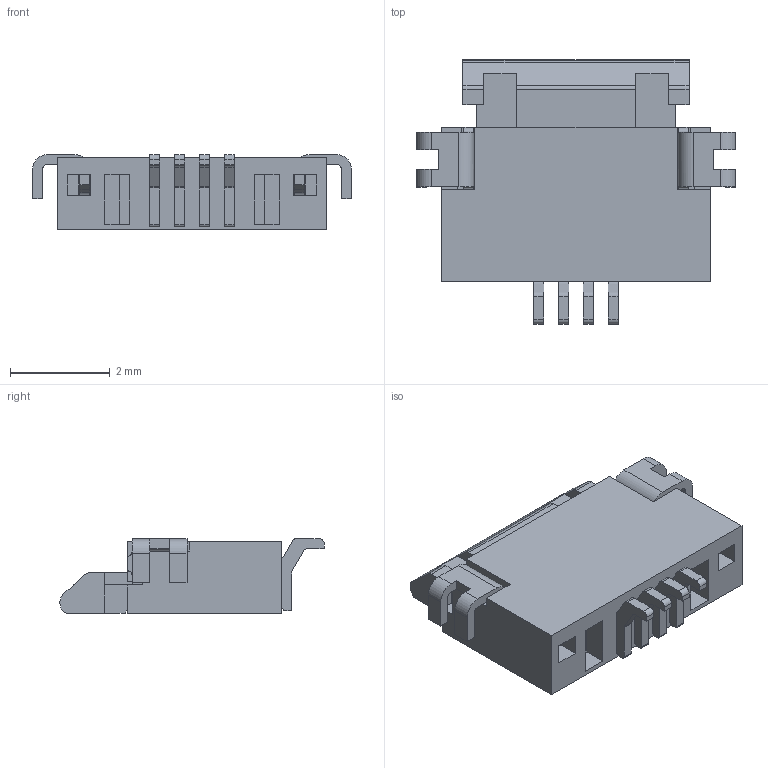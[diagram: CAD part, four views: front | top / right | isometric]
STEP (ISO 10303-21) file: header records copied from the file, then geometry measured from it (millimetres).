
FILE_DESCRIPTION((''),'2;1');
FILE_NAME('S-50506-004XX-XXX_ASM','2017-09-30T',('k41758'),(''),'PRO/ENGINEER BY PARAMETRIC TECHNOLOGY CORPORATION, 2009360','PRO/ENGINEER BY PARAMETRIC TECHNOLOGY CORPORATION, 2009360','');
FILE_SCHEMA(('CONFIG_CONTROL_DESIGN'));
Length unit declared in the file: millimetre
Products named in the file (1): S-50506-004XX-XXX_ASM
Bounding box: 6.4 x 5.3 x 1.5 mm (x, y, z)
Volume: 21.4 mm3; surface area: 147.1 mm2
Topology: 1 solids, 1 shells, 468 faces, 1425 edges, 953 vertices
Faces by surface type: plane 332, cylinder 136
Entity records: 16053 total; most frequent: CARTESIAN_POINT 2900, ORIENTED_EDGE 2850, DIRECTION 2653, EDGE_CURVE 1425, VECTOR 1109, LINE 1109, VERTEX_POINT 953, AXIS2_PLACEMENT_3D 772
